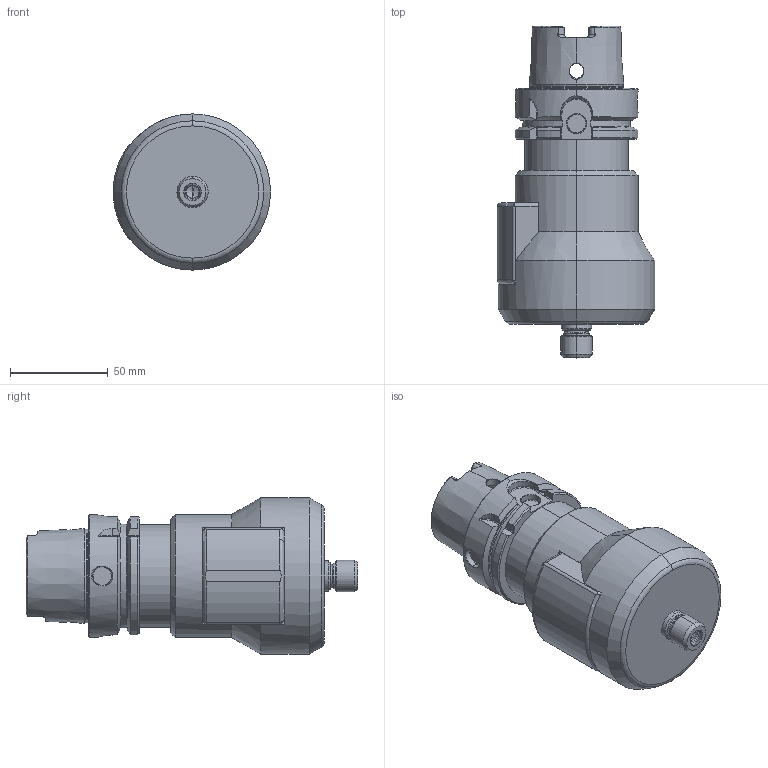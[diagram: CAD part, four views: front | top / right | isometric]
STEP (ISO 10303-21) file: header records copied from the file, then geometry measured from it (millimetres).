
FILE_DESCRIPTION (( 'STEP AP214' ), '1' );
FILE_NAME ('TJS-HPC-HSK A63-Detail.STEP', '2017-06-19T04:46:17', ( '' ), ( '' ), 'SwSTEP 2.0', 'SolidWorks 2015', '' );
FILE_SCHEMA (( 'AUTOMOTIVE_DESIGN' ));
Length unit declared in the file: millimetre
Products named in the file (1): TJS-HPC-HSK A63-Detail
Bounding box: 80.55 x 170.01 x 80 mm (x, y, z)
Volume: 442907.9 mm3; surface area: 52478.8 mm2
Topology: 1 solids, 1 shells, 278 faces, 712 edges, 444 vertices
Faces by surface type: cylinder 89, cone 77, plane 66, torus 43, sphere 2, bspline 1
Entity records: 11004 total; most frequent: CARTESIAN_POINT 4386, ORIENTED_EDGE 1416, DIRECTION 1369, EDGE_CURVE 708, AXIS2_PLACEMENT_3D 566, VERTEX_POINT 444, EDGE_LOOP 294, CIRCLE 288
